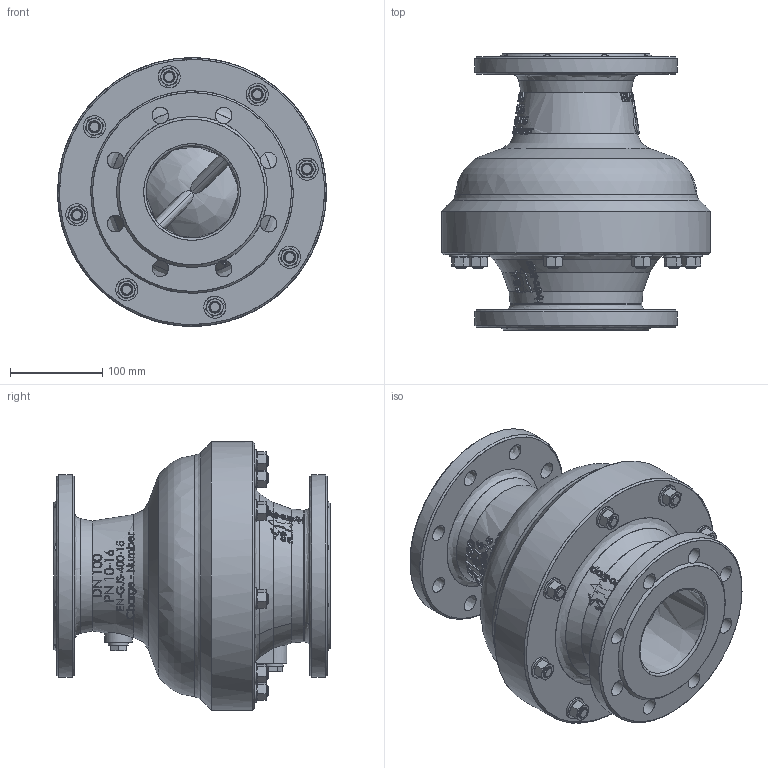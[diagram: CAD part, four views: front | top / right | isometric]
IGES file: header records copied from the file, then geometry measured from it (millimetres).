
Start section: P
Global section: file name: PSA_Hydro-Stop_DN100.igs; native system: By Siemens PLM Incorporated; preprocessor: XPlus GENERIC/IGES 25.1.153; author: Christin-Michelle Fremgen; organization: PSA Wasserarmaturen GmbH; date: 20241009.154519; units: millimetre
Bounding box: 291.99 x 300 x 291.95 mm (x, y, z)
Surface area: 533646.7 mm2 (no closed solid volume)
Topology: 0 solids, 0 shells, 1616 faces, 9415 edges, 9411 vertices
Faces by surface type: bspline 1616
